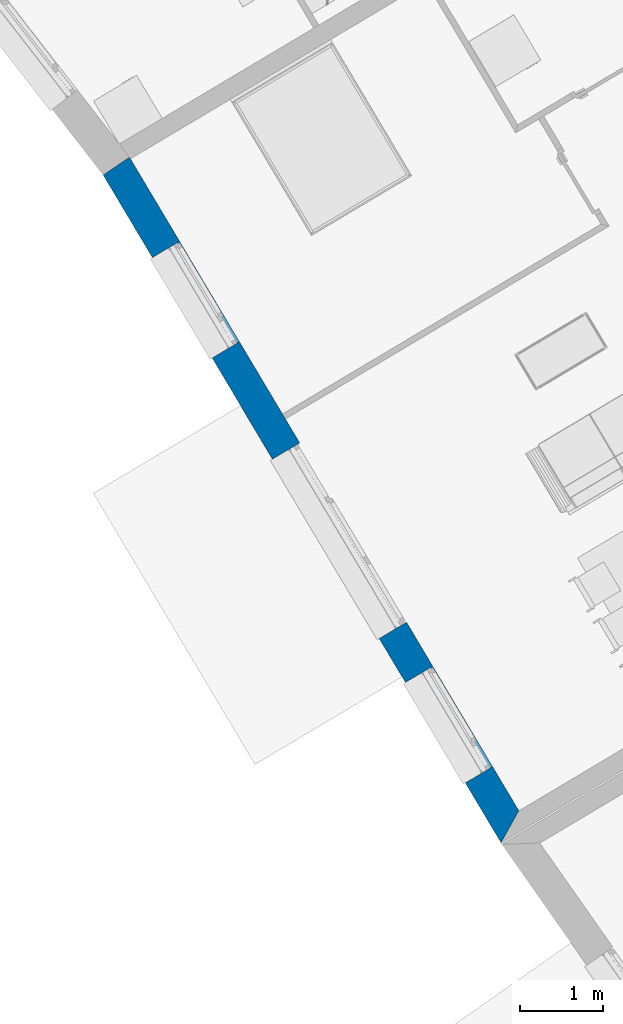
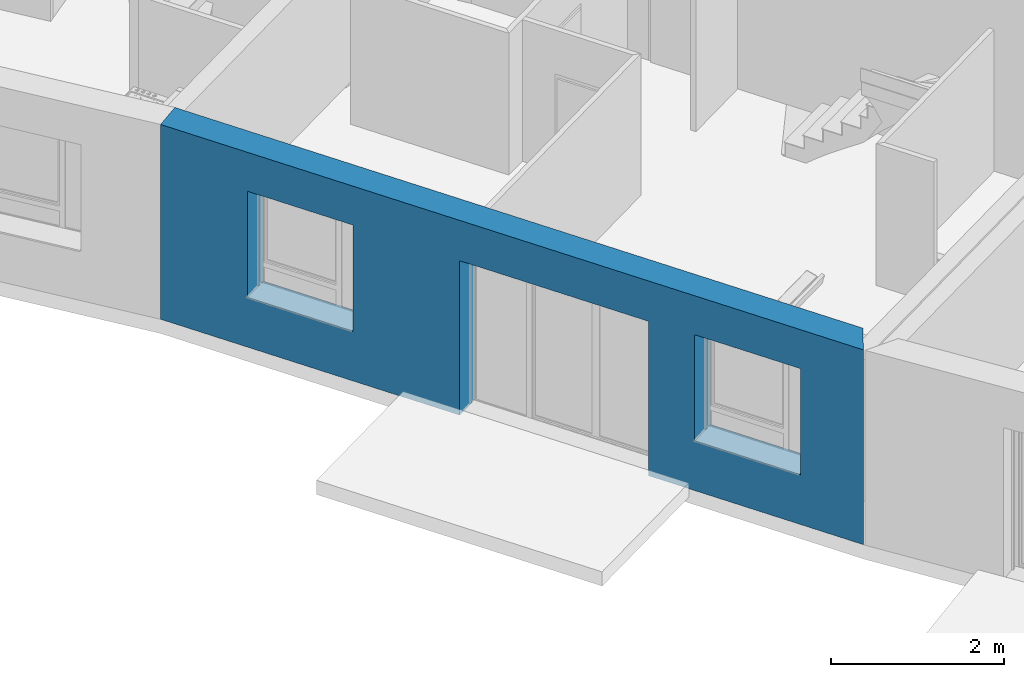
# One storey, part 37 of 195: 1 wall, 3 openings.
"""IFC2X3 building model written with IfcOpenShell, lengths in metres."""

import ifcopenshell
import ifcopenshell.guid

model = None  # the IFC model being written
_history = None  # IfcOwnerHistory: only IFC2X3 demands one
_inside = {}  # id of a spatial element -> (the spatial element, [elements in it])
_under = {}  # id of a project, library or spatial element -> (it, [spatial elements below it])
_declared = {}  # id of a project -> (the project, [libraries it declares])
_typed = {}  # id of a type object -> (the type object, [elements of that type])
_made_of = {}  # id of a material, layer set ... -> (it, [elements and type objects made of it])


def new_model(schema):
    """Start an empty IFC model of exactly this schema.

    Asked for "IFC4X3", IfcOpenShell would pick the latest addendum, in which some entities
    have other attributes; the version numbers below select the first issue.
    IFC2X3 requires an IfcOwnerHistory on every rooted entity: one is made here for all.
    """
    global model, _history
    if schema == "IFC4X3":
        model = ifcopenshell.file(schema_version=(4, 3, 0, 0))
    else:
        model = ifcopenshell.file(schema=schema)
    _inside.clear()
    _under.clear()
    _declared.clear()
    _typed.clear()
    _made_of.clear()
    _history = None
    if model.schema == "IFC2X3":
        org = make("IfcOrganization", Name="unknown")
        user = make(
            "IfcPersonAndOrganization",
            ThePerson=make("IfcPerson", FamilyName="unknown"),
            TheOrganization=org,
        )
        app = make(
            "IfcApplication",
            ApplicationDeveloper=org,
            Version="unknown",
            ApplicationFullName="unknown",
            ApplicationIdentifier="unknown",
        )
        _history = make(
            "IfcOwnerHistory",
            OwningUser=user,
            OwningApplication=app,
            ChangeAction="ADDED",
            CreationDate=0,
        )
    return model


def make(cls, **values):
    """One entity of the class cls with the attributes given. An attribute that is None is left unset."""
    return model.create_entity(
        cls, **{name: value for name, value in values.items() if value is not None}
    )


def entity(cls, *values):
    """Any entity or typed value of the class cls, its attributes in the order of the schema. None: left unset."""
    e = model.create_entity(cls)
    for i, value in enumerate(values):
        if value is not None:
            e[i] = value
    return e


def rooted(cls, **values):
    """An entity with a GlobalId (a new one), such as an element, a storey or a relation."""
    return make(cls, GlobalId=ifcopenshell.guid.new(), OwnerHistory=_history, **values)


def si_unit(unit_type, name, prefix=None):
    """IfcSIUnit, for example si_unit("LENGTHUNIT", "METRE", prefix="MILLI")."""
    return make("IfcSIUnit", UnitType=unit_type, Prefix=prefix, Name=name)


def converted_unit(unit_type, name, factor, base, dimensions=None, offset=None):
    """IfcConversionBasedUnit, such as the inch: factor (a typed value) times the base unit."""
    return make(
        "IfcConversionBasedUnit"
        if offset is None
        else "IfcConversionBasedUnitWithOffset",
        ConversionOffset=offset,
        Dimensions=None
        if dimensions is None
        else entity("IfcDimensionalExponents", *dimensions),
        UnitType=unit_type,
        Name=name,
        ConversionFactor=make(
            "IfcMeasureWithUnit", ValueComponent=factor, UnitComponent=base
        ),
    )


def derived_unit(unit_type, elements):
    """IfcDerivedUnit: a product of units, each with its exponent."""
    return make(
        "IfcDerivedUnit",
        Elements=[
            make("IfcDerivedUnitElement", Unit=unit, Exponent=power)
            for unit, power in elements
        ],
        UnitType=unit_type,
    )


def money_unit(currency):
    """IfcMonetaryUnit."""
    return make("IfcMonetaryUnit", Currency=currency)


def assignment(units):
    """IfcUnitAssignment: the units of a project."""
    return None if units is None else make("IfcUnitAssignment", Units=units)


def point(xyz):
    """IfcCartesianPoint."""
    return None if xyz is None else make("IfcCartesianPoint", Coordinates=xyz)


def direction(xyz):
    """IfcDirection."""
    return None if xyz is None else make("IfcDirection", DirectionRatios=xyz)


def frame(location, z_axis=None, x_axis=None):
    """IfcAxis2Placement3D, a coordinate frame: its origin and axes. An axis left out is left unset."""
    return make(
        "IfcAxis2Placement3D",
        Location=point(location),
        Axis=direction(z_axis),
        RefDirection=direction(x_axis),
    )


def origin_with_axes():
    """The frame at (0, 0, 0) with the z axis (0, 0, 1) and the x axis (1, 0, 0) written out."""
    return frame((0.0, 0.0, 0.0), z_axis=(0.0, 0.0, 1.0), x_axis=(1.0, 0.0, 0.0))


def place(relative_to, where):
    """IfcLocalPlacement: puts the frame where relative to a parent placement (None: the world)."""
    return make(
        "IfcLocalPlacement", PlacementRelTo=relative_to, RelativePlacement=where
    )


def context(
    kind, dimensions, precision=None, world=None, true_north=None, identifier=None
):
    """IfcGeometricRepresentationContext, for example the 3D "Model" context."""
    return make(
        "IfcGeometricRepresentationContext",
        ContextIdentifier=identifier,
        ContextType=kind,
        CoordinateSpaceDimension=dimensions,
        Precision=precision,
        WorldCoordinateSystem=world,
        TrueNorth=true_north,
    )


def subcontext(parent, identifier, kind, view, scale=None):
    """IfcGeometricRepresentationSubContext, for example "Body" below "Model"."""
    return make(
        "IfcGeometricRepresentationSubContext",
        ContextIdentifier=identifier,
        ContextType=kind,
        ParentContext=parent,
        TargetScale=scale,
        TargetView=view,
    )


def project(units=None, contexts=None):
    """IfcProject with its units and contexts."""
    return rooted(
        "IfcProject",
        Name="project",
        RepresentationContexts=contexts,
        UnitsInContext=assignment(units),
    )


def spatial(cls, under=None, at=None, **own):
    """A site, building, storey or space (cls), placed at a placement, below another one or the project."""
    s = rooted(cls, ObjectPlacement=at, **own)
    if under is not None:
        _under.setdefault(under.id(), (under, []))[1].append(s)
    return s


def polyline(points):
    """IfcPolyline through the points."""
    return make("IfcPolyline", Points=[point(p) for p in points])


def outline(outer, holes=None, kind="AREA"):
    """IfcArbitraryClosedProfileDef: a profile drawn as a closed curve; with holes, ...WithVoids."""
    if holes is None:
        return make("IfcArbitraryClosedProfileDef", ProfileType=kind, OuterCurve=outer)
    return make(
        "IfcArbitraryProfileDefWithVoids",
        ProfileType=kind,
        OuterCurve=outer,
        InnerCurves=holes,
    )


def extrude(swept, where, along, depth):
    """IfcExtrudedAreaSolid: the profile swept, set in the frame where, extruded along a direction by depth."""
    return make(
        "IfcExtrudedAreaSolid",
        SweptArea=swept,
        Position=where,
        ExtrudedDirection=direction(along),
        Depth=depth,
    )


def faces_of(points, faces, orient=None, outer=None):
    """IfcFace entities. A face is a list of loops; a loop is a list of indices into points, from 0.

    orient and outer hold one flag for each loop. By default every Orientation is true, the
    first loop of a face is its IfcFaceOuterBound and the others are IfcFaceBound.
    """
    made = []
    for i, loops in enumerate(faces):
        bounds = []
        for j, loop in enumerate(loops):
            is_outer = j == 0 if outer is None else outer[i][j]
            bounds.append(
                make(
                    "IfcFaceOuterBound" if is_outer else "IfcFaceBound",
                    Bound=make("IfcPolyLoop", Polygon=[points[k] for k in loop]),
                    Orientation=True if orient is None else orient[i][j],
                )
            )
        made.append(make("IfcFace", Bounds=bounds))
    return made


def faceted_brep(points, faces, orient=None, outer=None, voids=None):
    """IfcFacetedBrep: a solid bounded by flat faces; with voids (closed shells), ...WithVoids."""
    shared = [point(p) for p in points]
    hull = make("IfcClosedShell", CfsFaces=faces_of(shared, faces, orient, outer))
    if voids is None:
        return make("IfcFacetedBrep", Outer=hull)
    return make(
        "IfcFacetedBrepWithVoids",
        Outer=hull,
        Voids=[
            make(cls, CfsFaces=faces_of(shared, fs, o, b)) for cls, fs, o, b in voids
        ],
    )


def shape(context_of_items, identifier, shape_type, items):
    """IfcShapeRepresentation: the items that make up one representation, for example the "Body"."""
    return make(
        "IfcShapeRepresentation",
        ContextOfItems=context_of_items,
        RepresentationIdentifier=identifier,
        RepresentationType=shape_type,
        Items=items,
    )


def material(Name=None, Category=None):
    """IfcMaterial."""
    return make("IfcMaterial", Name=Name, Category=Category)


def layer(
    of_material, thickness, ventilated=None, Name=None, Category=None, Priority=None
):
    """IfcMaterialLayer: one layer of a wall or slab, of a material (None: an air gap)."""
    return make(
        "IfcMaterialLayer",
        Material=of_material,
        LayerThickness=thickness,
        IsVentilated=ventilated,
        Name=Name,
        Category=Category,
        Priority=Priority,
    )


def layer_set(layers, Name=None):
    """IfcMaterialLayerSet."""
    return make("IfcMaterialLayerSet", MaterialLayers=layers, LayerSetName=Name)


def layer_usage(for_layer_set, set_direction, sense, offset, extent=None):
    """IfcMaterialLayerSetUsage: how a layer set lies in its element."""
    return make(
        "IfcMaterialLayerSetUsage",
        ForLayerSet=for_layer_set,
        LayerSetDirection=set_direction,
        DirectionSense=sense,
        OffsetFromReferenceLine=offset,
        ReferenceExtent=extent,
    )


def made_of(thing, what):
    """Note that an element or type object is made of a material, layer set ...; save() writes the relation."""
    if what is not None:
        _made_of.setdefault(what.id(), (what, []))[1].append(thing)
    return thing


def type_object(cls, material=None, **own):
    """A type object (cls), such as IfcWallType, which elements share."""
    return made_of(rooted(cls, **own), material)


def element(
    cls,
    number,
    at=None,
    inside=None,
    cuts=None,
    type_object=None,
    material=None,
    context=None,
    identifier="Body",
    shape_type=None,
    held_by="IfcProductDefinitionShape",
    body=None,
    shapes=None,
    **own,
):
    """One element of the class cls, such as IfcWall. Its Tag is "e" and its number.

    at: its placement. inside: the storey or other place that contains it. cuts: it is an
    opening in that element (IfcRelVoidsElement). A single representation is given by context,
    identifier, shape_type and body (its items); several are given by shapes. held_by: the class
    of the entity that holds the representations. save() writes the other relations.
    """
    e = rooted(cls, Tag="e%d" % number, ObjectPlacement=at, **own)
    if body is not None:
        shapes = [shape(context, identifier, shape_type, body)]
    if shapes is not None:
        e.Representation = make(held_by, Representations=shapes)
    if inside is not None:
        _inside.setdefault(inside.id(), (inside, []))[1].append(e)
    if cuts is not None:
        rooted(
            "IfcRelVoidsElement", RelatingBuildingElement=cuts, RelatedOpeningElement=e
        )
    if type_object is not None:
        _typed.setdefault(type_object.id(), (type_object, []))[1].append(e)
    return made_of(e, material)


def aggregate(whole, parts):
    """IfcRelAggregates: a whole, such as a stair, and the parts it consists of."""
    return rooted("IfcRelAggregates", RelatingObject=whole, RelatedObjects=parts)


def save(model, path):
    """Write the relations noted so far, then the file.

    IfcRelAggregates (storeys below a building ...), IfcRelContainedInSpatialStructure (elements
    in a storey), IfcRelDefinesByType, IfcRelAssociatesMaterial and IfcRelDeclares: one each for
    every whole, place, type object, material and project.
    """
    for whole, parts in _under.values():
        aggregate(whole, parts)
    for where, things in _inside.values():
        rooted(
            "IfcRelContainedInSpatialStructure",
            RelatedElements=things,
            RelatingStructure=where,
        )
    for kind, things in _typed.values():
        rooted("IfcRelDefinesByType", RelatedObjects=things, RelatingType=kind)
    for what, things in _made_of.values():
        rooted("IfcRelAssociatesMaterial", RelatedObjects=things, RelatingMaterial=what)
    for by, libraries in _declared.values():
        rooted("IfcRelDeclares", RelatingContext=by, RelatedDefinitions=libraries)
    model.write(path)


model = new_model("IFC2X3")

# Units and contexts
model_context = context("Model", 3, precision=1e-05, world=origin_with_axes(), true_north=direction((0.0, 1.0)))
body_context = subcontext(model_context, "Body", "Model", "MODEL_VIEW")
ifc_project = project(units=[si_unit("LENGTHUNIT", "METRE"), si_unit("AREAUNIT", "SQUARE_METRE"), si_unit("VOLUMEUNIT", "CUBIC_METRE"), converted_unit("PLANEANGLEUNIT", "DEGREE", entity("IfcPlaneAngleMeasure", 0.0174532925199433), si_unit("PLANEANGLEUNIT", "RADIAN"), dimensions=[0, 0, 0, 0, 0, 0, 0]), money_unit("CHF"), converted_unit("TIMEUNIT", "Year", entity("IfcTimeMeasure", 31557600.0), si_unit("TIMEUNIT", "SECOND"), dimensions=[0, 0, 1, 0, 0, 0, 0]), si_unit("MASSUNIT", "GRAM", prefix="KILO"), si_unit("THERMODYNAMICTEMPERATUREUNIT", "DEGREE_CELSIUS"), si_unit("LUMINOUSINTENSITYUNIT", "LUMEN"), si_unit("ENERGYUNIT", "JOULE", prefix="MEGA"), derived_unit("THERMALCONDUCTANCEUNIT", [(si_unit("POWERUNIT", "WATT"), 1), (si_unit("LENGTHUNIT", "METRE"), -1), (si_unit("THERMODYNAMICTEMPERATUREUNIT", "KELVIN"), -1)]), derived_unit("SPECIFICHEATCAPACITYUNIT", [(si_unit("ENERGYUNIT", "JOULE"), 1), (si_unit("MASSUNIT", "GRAM", prefix="KILO"), -1), (si_unit("THERMODYNAMICTEMPERATUREUNIT", "KELVIN"), -1)]), derived_unit("MASSDENSITYUNIT", [(si_unit("MASSUNIT", "GRAM", prefix="KILO"), 1), (si_unit("VOLUMEUNIT", "CUBIC_METRE"), -1)])], contexts=[model_context])

# Site, building, storey
site_placement = place(None, origin_with_axes())
site = spatial("IfcSite", under=ifc_project, at=site_placement, Name="Site", CompositionType="ELEMENT")
building_placement = place(site_placement, origin_with_axes())
building = spatial("IfcBuilding", under=site, at=building_placement, Name="Bâtiment", CompositionType="ELEMENT")
storey_placement = place(building_placement, origin_with_axes())
storey = spatial("IfcBuildingStorey", under=building, at=storey_placement, Name="rdc", CompositionType="ELEMENT", Elevation=0.0)

# Wall, openings
ifc_material_1 = material(Name="Parpaing 312445824")
ifc_layer_1 = layer(ifc_material_1, 0.22, ventilated="UNKNOWN")
ifc_material_2 = material(Name="Isolant styromousse 301821074")
ifc_layer_2 = layer(ifc_material_2, 0.16, ventilated="UNKNOWN")
ifc_layer_set = layer_set([ifc_layer_1, ifc_layer_2], Name="isol int 22+16 0836643197")
ifc_layer_usage = layer_usage(ifc_layer_set, "AXIS2", "NEGATIVE", 0.0)
wall_type = type_object("IfcWallType", Name="isol int 22+16 0836643197 380", PredefinedType="NOTDEFINED")
wall_placement = place(storey_placement, frame((9543.212814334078, -1055.206014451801, 57.7), z_axis=(0.0, 0.0, 1.0), x_axis=(-0.5118298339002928, 0.859086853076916, 0.0)))
wall = element("IfcWallStandardCase", 1, at=wall_placement, inside=storey, type_object=wall_type, material=ifc_layer_usage, Name="Mur-112", context=body_context, shape_type="SweptSolid", body=[
    extrude(outline(polyline([(0.2199999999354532, -0.3800000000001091), (9.335159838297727, -0.3799999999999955), (9.311906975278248, 0.0), (0.0, 0.0), (0.2199999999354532, -0.3800000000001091)])), origin_with_axes(), (0.0, 0.0, 1.0), 2.75),
])
opening_1_placement = place(wall_placement, frame((1.536079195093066, 0.0, 0.7000000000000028), z_axis=(0.0, 0.0, 1.0), x_axis=(1.0, 0.0, 0.0)))
element("IfcOpeningElement", 2, at=opening_1_placement, cuts=wall, Name="Fen-045", context=body_context, shape_type="Brep", body=[
    faceted_brep([(0.7000000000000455, -0.4800000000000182, 1.5), (-0.7000000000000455, -0.4800000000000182, 1.5), (-0.6999999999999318, -4.475503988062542, 1.5), (0.7000000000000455, -4.475503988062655, 1.5), (0.7000000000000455, -0.4800000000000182, 1.700000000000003), (-0.7000000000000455, -0.4800000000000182, 1.700000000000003), (-0.7000000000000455, -0.2999999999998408, 1.5), (-0.6999999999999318, -0.2999999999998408, 0.0), (-0.6999999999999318, -4.475503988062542, 0.0), (0.7000000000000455, -4.475503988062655, 0.0), (0.7000000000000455, -0.2999999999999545, 1.5), (0.7000000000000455, -0.3000000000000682, 0.0), (0.6999999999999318, -0.2200000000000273, 1.5), (0.6999999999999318, -0.2200000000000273, 1.700000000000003), (-0.7000000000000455, -0.2200000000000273, 1.700000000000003), (-0.7000000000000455, -0.2200000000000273, 1.5), (-0.7000000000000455, 4.095503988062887, 1.5), (-0.7000000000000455, 4.095503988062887, 0.0), (0.7000000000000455, 4.095503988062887, 0.0), (0.7000000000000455, 4.095503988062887, 1.5)], [[[0, 1, 2, 3]], [[1, 0, 4, 5]], [[1, 6, 7, 8, 2]], [[2, 8, 9, 3]], [[10, 0, 3, 9, 11]], [[0, 10, 12, 13, 4]], [[14, 5, 4, 13]], [[6, 1, 5, 14, 15]], [[6, 15, 16, 17, 7]], [[7, 11, 9, 8]], [[12, 10, 11, 18, 19]], [[12, 15, 14, 13]], [[15, 12, 19, 16]], [[19, 18, 17, 16]], [[11, 7, 17, 18]]]),
])
opening_2_placement = place(wall_placement, frame((7.460538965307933, 0.0, 0.7000000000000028), z_axis=(0.0, 0.0, 1.0), x_axis=(1.0, 0.0, 0.0)))
element("IfcOpeningElement", 3, at=opening_2_placement, cuts=wall, Name="Fen-045", context=body_context, shape_type="Brep", body=[
    faceted_brep([(0.7000000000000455, -0.4800000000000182, 1.5), (-0.6999999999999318, -0.4800000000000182, 1.5), (-0.6999999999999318, -4.475503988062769, 1.5), (0.7000000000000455, -4.475503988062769, 1.5), (0.7000000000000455, -0.4800000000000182, 1.700000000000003), (-0.6999999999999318, -0.4800000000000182, 1.700000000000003), (-0.6999999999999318, -0.2999999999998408, 1.5), (-0.6999999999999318, -0.2999999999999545, 0.0), (-0.6999999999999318, -4.475503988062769, 0.0), (0.7000000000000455, -4.475503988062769, 0.0), (0.7000000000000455, -0.2999999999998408, 1.5), (0.7000000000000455, -0.2999999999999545, 0.0), (0.6999999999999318, -0.2199999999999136, 1.5), (0.6999999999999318, -0.2199999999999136, 1.700000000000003), (-0.7000000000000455, -0.2200000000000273, 1.700000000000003), (-0.7000000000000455, -0.2200000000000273, 1.5), (-0.7000000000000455, 4.095503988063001, 1.5), (-0.7000000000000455, 4.095503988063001, 0.0), (0.7000000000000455, 4.095503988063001, 0.0), (0.7000000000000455, 4.095503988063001, 1.5)], [[[0, 1, 2, 3]], [[1, 0, 4, 5]], [[1, 6, 7, 8, 2]], [[2, 8, 9, 3]], [[10, 0, 3, 9, 11]], [[0, 10, 12, 13, 4]], [[14, 5, 4, 13]], [[6, 1, 5, 14, 15]], [[6, 15, 16, 17, 7]], [[7, 11, 9, 8]], [[12, 10, 11, 18, 19]], [[12, 15, 14, 13]], [[15, 12, 19, 16]], [[19, 18, 17, 16]], [[11, 7, 17, 18]]]),
])
opening_3_placement = place(wall_placement, frame((4.099942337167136, 0.0, 0.0), z_axis=(0.0, 0.0, 1.0), x_axis=(1.0, 0.0, 0.0)))
element("IfcOpeningElement", 4, at=opening_3_placement, cuts=wall, Name="Fen-045", context=body_context, shape_type="Brep", body=[
    faceted_brep([(1.250000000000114, -0.4800000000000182, 2.18), (-1.25, -0.4800000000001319, 2.18), (-1.25, -4.475503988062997, 2.18), (1.250000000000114, -4.475503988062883, 2.18), (1.250000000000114, -0.4800000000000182, 2.380000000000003), (-1.25, -0.4800000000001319, 2.380000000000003), (-1.25, -0.2999999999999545, 2.18), (-1.249999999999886, -0.3000000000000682, 0.0), (-1.25, -4.475503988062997, 0.0), (1.250000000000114, -4.475503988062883, 0.0), (1.250000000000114, -0.2999999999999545, 2.18), (1.250000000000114, -0.3000000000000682, 0.0), (1.25, -0.2200000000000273, 2.18), (1.25, -0.2200000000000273, 2.380000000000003), (-1.25, -0.2200000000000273, 2.380000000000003), (-1.25, -0.2200000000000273, 2.18), (-1.25, 4.095503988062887, 2.18), (-1.25, 4.095503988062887, 0.0), (1.25, 4.095503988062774, 0.0), (1.25, 4.095503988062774, 2.18)], [[[0, 1, 2, 3]], [[1, 0, 4, 5]], [[1, 6, 7, 8, 2]], [[2, 8, 9, 3]], [[10, 0, 3, 9, 11]], [[0, 10, 12, 13, 4]], [[4, 13, 14, 5]], [[6, 1, 5, 14, 15]], [[6, 15, 16, 17, 7]], [[7, 11, 9, 8]], [[12, 10, 11, 18, 19]], [[12, 15, 14, 13]], [[15, 12, 19, 16]], [[19, 18, 17, 16]], [[11, 7, 17, 18]]]),
])

save(model, "model.ifc")
